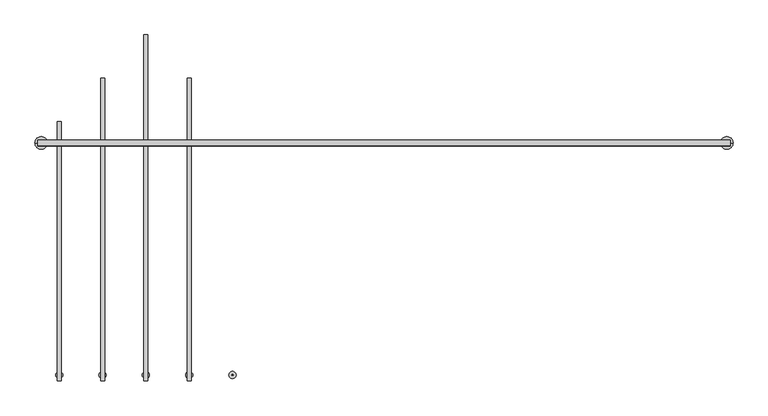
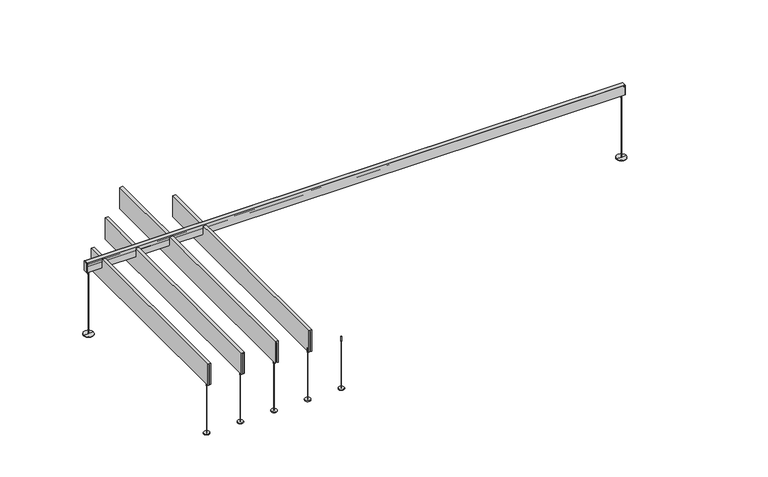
"""IFC4 building model written with IfcOpenShell, lengths in millimetres: light fixture geometry, Lighting_Fixture-Focal_Point-AirCore_Bridge-Cantilever_Wave-Seem_1_LED : FSM1SBW125LF30K1CUNVLD1J24_."""

from ifc_helpers import new_model, si_unit, point, frame, frame_2d, origin, origin_with_axes, place, context, project, spatial, polyline, circle_curve, trimmed, segment, composite_curve, outline, extrude, faceted_brep, source, transform, mapped, element, save
from ifc_brep_helpers import plane_surface, cylinder_surface, advanced_brep


def light_fixture_df12a1cc(model_context):
    return source(origin(), model_context, "Body", "SolidModel", [
        advanced_brep(
        [(-1067.7237535, -1635.125, 0.0), (-1065.8762465, -1635.125, 0.0), (-1066.8, -1635.125, 0.0), (-1067.7237535, -1635.125, 454.6203125), (-1065.8762465, -1635.125, 454.6203125), (-1070.76875, -1635.125, 454.6203125), (-1062.83125, -1635.125, 454.6203125), (-1070.76875, -1635.125, 499.0703125), (-1062.83125, -1635.125, 499.0703125), (-1066.8, -1635.125, 499.0703125)],
        [
            (0, 1, circle_curve(frame((-1066.8, -1635.125, 0.0), z_axis=(0.0, 0.0, -1.0), x_axis=(1.0, 0.0, 0.0)), 0.9237535)),
            (1, 2),
            (2, 0),
            (1, 0, circle_curve(frame((-1066.8, -1635.125, 0.0), z_axis=(0.0, 0.0, -1.0), x_axis=(1.0, 0.0, 0.0)), 0.9237535)),
            (3, 4, circle_curve(frame((-1066.8, -1635.125, 454.6203125), z_axis=(0.0, 0.0, -1.0), x_axis=(1.0, 0.0, 0.0)), 0.9237535)),
            (4, 1),
            (0, 3),
            (4, 3, circle_curve(frame((-1066.8, -1635.125, 454.6203125), z_axis=(0.0, 0.0, -1.0), x_axis=(1.0, 0.0, 0.0)), 0.9237535)),
            (5, 6, circle_curve(frame((-1066.8, -1635.125, 454.6203125), z_axis=(0.0, 0.0, -1.0), x_axis=(1.0, 0.0, 0.0)), 3.96875)),
            (6, 4),
            (3, 5),
            (6, 5, circle_curve(frame((-1066.8, -1635.125, 454.6203125), z_axis=(0.0, 0.0, -1.0), x_axis=(1.0, 0.0, 0.0)), 3.96875)),
            (7, 8, circle_curve(frame((-1066.8, -1635.125, 499.0703125), z_axis=(0.0, 0.0, -1.0), x_axis=(1.0, 0.0, 0.0)), 3.96875)),
            (8, 6),
            (5, 7),
            (8, 7, circle_curve(frame((-1066.8, -1635.125, 499.0703125), z_axis=(0.0, 0.0, -1.0), x_axis=(1.0, 0.0, 0.0)), 3.96875)),
            (9, 8),
            (7, 9),
        ],
        [
            plane_surface(frame((-1066.8, -1635.125, 0.0), z_axis=(0.0, 0.0, -1.0), x_axis=(1.0, 0.0, 0.0))),
            cylinder_surface(frame((-1066.8, -1635.125, 543.5203125), z_axis=(0.0, 0.0, 1.0), x_axis=(1.0, 0.0, 0.0)), 0.9237535),
            plane_surface(frame((-1066.8, -1635.125, 454.6203125), z_axis=(0.0, 0.0, -1.0), x_axis=(1.0, 0.0, 0.0))),
            cylinder_surface(frame((-1066.8, -1635.125, 543.5203125), z_axis=(0.0, 0.0, 1.0), x_axis=(1.0, 0.0, 0.0)), 3.96875),
            plane_surface(frame((-1066.8, -1635.125, 499.0703125), z_axis=(0.0, 0.0, 1.0), x_axis=(1.0, 0.0, 0.0))),
        ],
        [
            (0, [[1, 2, 3]]),
            (0, [[4, -3, -2]]),
            (1, [[5, 6, -1, 7]]),
            (1, [[8, -7, -4, -6]]),
            (2, [[9, 10, -5, 11]]),
            (2, [[12, -11, -8, -10]]),
            (3, [[13, 14, -9, 15]]),
            (3, [[16, -15, -12, -14]]),
            (4, [[17, -13, 18]]),
            (4, [[-18, -16, -17]]),
        ],
    ),
        extrude(outline(composite_curve([segment(trimmed(circle_curve(frame_2d((-1066.8, -1635.125)), 25.4), [point((-1066.8, -1660.525))], [point((-1066.8, -1609.725))], False, "CARTESIAN"), True, "CONTINUOUS"), segment(trimmed(circle_curve(frame_2d((-1066.8, -1635.125)), 25.4), [point((-1066.8, -1609.725))], [point((-1066.8, -1660.525))], False, "CARTESIAN"), True, "CONTINUOUS")], self_intersect=False)), origin_with_axes(), (0.0, 0.0, 1.0), 6.35),
        advanced_brep(
        [(-1372.5237535, -1635.125, 0.0), (-1370.6762465, -1635.125, 0.0), (-1371.6, -1635.125, 0.0), (-1372.5237535, -1635.125, 454.6203125), (-1370.6762465, -1635.125, 454.6203125), (-1375.56875, -1635.125, 454.6203125), (-1367.63125, -1635.125, 454.6203125), (-1375.56875, -1635.125, 499.0703125), (-1367.63125, -1635.125, 499.0703125), (-1371.6, -1635.125, 499.0703125)],
        [
            (0, 1, circle_curve(frame((-1371.6, -1635.125, 0.0), z_axis=(0.0, 0.0, -1.0), x_axis=(1.0, 0.0, 0.0)), 0.9237535)),
            (1, 2),
            (2, 0),
            (1, 0, circle_curve(frame((-1371.6, -1635.125, 0.0), z_axis=(0.0, 0.0, -1.0), x_axis=(1.0, 0.0, 0.0)), 0.9237535)),
            (3, 4, circle_curve(frame((-1371.6, -1635.125, 454.6203125), z_axis=(0.0, 0.0, -1.0), x_axis=(1.0, 0.0, 0.0)), 0.9237535)),
            (4, 1),
            (0, 3),
            (4, 3, circle_curve(frame((-1371.6, -1635.125, 454.6203125), z_axis=(0.0, 0.0, -1.0), x_axis=(1.0, 0.0, 0.0)), 0.9237535)),
            (5, 6, circle_curve(frame((-1371.6, -1635.125, 454.6203125), z_axis=(0.0, 0.0, -1.0), x_axis=(1.0, 0.0, 0.0)), 3.96875)),
            (6, 4),
            (3, 5),
            (6, 5, circle_curve(frame((-1371.6, -1635.125, 454.6203125), z_axis=(0.0, 0.0, -1.0), x_axis=(1.0, 0.0, 0.0)), 3.96875)),
            (7, 8, circle_curve(frame((-1371.6, -1635.125, 499.0703125), z_axis=(0.0, 0.0, -1.0), x_axis=(1.0, 0.0, 0.0)), 3.96875)),
            (8, 6),
            (5, 7),
            (8, 7, circle_curve(frame((-1371.6, -1635.125, 499.0703125), z_axis=(0.0, 0.0, -1.0), x_axis=(1.0, 0.0, 0.0)), 3.96875)),
            (9, 8),
            (7, 9),
        ],
        [
            plane_surface(frame((-1371.6, -1635.125, 0.0), z_axis=(0.0, 0.0, -1.0), x_axis=(1.0, 0.0, 0.0))),
            cylinder_surface(frame((-1371.6, -1635.125, 543.5203125), z_axis=(0.0, 0.0, 1.0), x_axis=(1.0, 0.0, 0.0)), 0.9237535),
            plane_surface(frame((-1371.6, -1635.125, 454.6203125), z_axis=(0.0, 0.0, -1.0), x_axis=(1.0, 0.0, 0.0))),
            cylinder_surface(frame((-1371.6, -1635.125, 543.5203125), z_axis=(0.0, 0.0, 1.0), x_axis=(1.0, 0.0, 0.0)), 3.96875),
            plane_surface(frame((-1371.6, -1635.125, 499.0703125), z_axis=(0.0, 0.0, 1.0), x_axis=(1.0, 0.0, 0.0))),
        ],
        [
            (0, [[1, 2, 3]]),
            (0, [[4, -3, -2]]),
            (1, [[5, 6, -1, 7]]),
            (1, [[8, -7, -4, -6]]),
            (2, [[9, 10, -5, 11]]),
            (2, [[12, -11, -8, -10]]),
            (3, [[13, 14, -9, 15]]),
            (3, [[16, -15, -12, -14]]),
            (4, [[17, -13, 18]]),
            (4, [[-18, -16, -17]]),
        ],
    ),
        extrude(outline(composite_curve([segment(trimmed(circle_curve(frame_2d((-1371.6, -1635.125)), 25.4), [point((-1371.6, -1660.525))], [point((-1371.6, -1609.725))], False, "CARTESIAN"), True, "CONTINUOUS"), segment(trimmed(circle_curve(frame_2d((-1371.6, -1635.125)), 25.4), [point((-1371.6, -1609.725))], [point((-1371.6, -1660.525))], False, "CARTESIAN"), True, "CONTINUOUS")], self_intersect=False)), origin_with_axes(), (0.0, 0.0, 1.0), 6.35),
        advanced_brep(
        [(-1677.3237535, -1635.125, 0.0), (-1675.4762465, -1635.125, 0.0), (-1676.4, -1635.125, 0.0), (-1677.3237535, -1635.125, 454.6203125), (-1675.4762465, -1635.125, 454.6203125), (-1680.36875, -1635.125, 454.6203125), (-1672.43125, -1635.125, 454.6203125), (-1680.36875, -1635.125, 499.0703125), (-1672.43125, -1635.125, 499.0703125), (-1676.4, -1635.125, 499.0703125)],
        [
            (0, 1, circle_curve(frame((-1676.4, -1635.125, 0.0), z_axis=(0.0, 0.0, -1.0), x_axis=(1.0, 0.0, 0.0)), 0.9237535)),
            (1, 2),
            (2, 0),
            (1, 0, circle_curve(frame((-1676.4, -1635.125, 0.0), z_axis=(0.0, 0.0, -1.0), x_axis=(1.0, 0.0, 0.0)), 0.9237535)),
            (3, 4, circle_curve(frame((-1676.4, -1635.125, 454.6203125), z_axis=(0.0, 0.0, -1.0), x_axis=(1.0, 0.0, 0.0)), 0.9237535)),
            (4, 1),
            (0, 3),
            (4, 3, circle_curve(frame((-1676.4, -1635.125, 454.6203125), z_axis=(0.0, 0.0, -1.0), x_axis=(1.0, 0.0, 0.0)), 0.9237535)),
            (5, 6, circle_curve(frame((-1676.4, -1635.125, 454.6203125), z_axis=(0.0, 0.0, -1.0), x_axis=(1.0, 0.0, 0.0)), 3.96875)),
            (6, 4),
            (3, 5),
            (6, 5, circle_curve(frame((-1676.4, -1635.125, 454.6203125), z_axis=(0.0, 0.0, -1.0), x_axis=(1.0, 0.0, 0.0)), 3.96875)),
            (7, 8, circle_curve(frame((-1676.4, -1635.125, 499.0703125), z_axis=(0.0, 0.0, -1.0), x_axis=(1.0, 0.0, 0.0)), 3.96875)),
            (8, 6),
            (5, 7),
            (8, 7, circle_curve(frame((-1676.4, -1635.125, 499.0703125), z_axis=(0.0, 0.0, -1.0), x_axis=(1.0, 0.0, 0.0)), 3.96875)),
            (9, 8),
            (7, 9),
        ],
        [
            plane_surface(frame((-1676.4, -1635.125, 0.0), z_axis=(0.0, 0.0, -1.0), x_axis=(1.0, 0.0, 0.0))),
            cylinder_surface(frame((-1676.4, -1635.125, 543.5203125), z_axis=(0.0, 0.0, 1.0), x_axis=(1.0, 0.0, 0.0)), 0.9237535),
            plane_surface(frame((-1676.4, -1635.125, 454.6203125), z_axis=(0.0, 0.0, -1.0), x_axis=(1.0, 0.0, 0.0))),
            cylinder_surface(frame((-1676.4, -1635.125, 543.5203125), z_axis=(0.0, 0.0, 1.0), x_axis=(1.0, 0.0, 0.0)), 3.96875),
            plane_surface(frame((-1676.4, -1635.125, 499.0703125), z_axis=(0.0, 0.0, 1.0), x_axis=(1.0, 0.0, 0.0))),
        ],
        [
            (0, [[1, 2, 3]]),
            (0, [[4, -3, -2]]),
            (1, [[5, 6, -1, 7]]),
            (1, [[8, -7, -4, -6]]),
            (2, [[9, 10, -5, 11]]),
            (2, [[12, -11, -8, -10]]),
            (3, [[13, 14, -9, 15]]),
            (3, [[16, -15, -12, -14]]),
            (4, [[17, -13, 18]]),
            (4, [[-18, -16, -17]]),
        ],
    ),
        extrude(outline(composite_curve([segment(trimmed(circle_curve(frame_2d((-1676.4, -1635.125)), 25.4), [point((-1676.4, -1660.525))], [point((-1676.4, -1609.725))], False, "CARTESIAN"), True, "CONTINUOUS"), segment(trimmed(circle_curve(frame_2d((-1676.4, -1635.125)), 25.4), [point((-1676.4, -1609.725))], [point((-1676.4, -1660.525))], False, "CARTESIAN"), True, "CONTINUOUS")], self_intersect=False)), origin_with_axes(), (0.0, 0.0, 1.0), 6.35),
        advanced_brep(
        [(-1982.1237535, -1635.125, 0.0), (-1980.2762465, -1635.125, 0.0), (-1981.2, -1635.125, 0.0), (-1982.1237535, -1635.125, 454.6203125), (-1980.2762465, -1635.125, 454.6203125), (-1985.16875, -1635.125, 454.6203125), (-1977.23125, -1635.125, 454.6203125), (-1985.16875, -1635.125, 499.0703125), (-1977.23125, -1635.125, 499.0703125), (-1981.2, -1635.125, 499.0703125)],
        [
            (0, 1, circle_curve(frame((-1981.2, -1635.125, 0.0), z_axis=(0.0, 0.0, -1.0), x_axis=(1.0, 0.0, 0.0)), 0.9237535)),
            (1, 2),
            (2, 0),
            (1, 0, circle_curve(frame((-1981.2, -1635.125, 0.0), z_axis=(0.0, 0.0, -1.0), x_axis=(1.0, 0.0, 0.0)), 0.9237535)),
            (3, 4, circle_curve(frame((-1981.2, -1635.125, 454.6203125), z_axis=(0.0, 0.0, -1.0), x_axis=(1.0, 0.0, 0.0)), 0.9237535)),
            (4, 1),
            (0, 3),
            (4, 3, circle_curve(frame((-1981.2, -1635.125, 454.6203125), z_axis=(0.0, 0.0, -1.0), x_axis=(1.0, 0.0, 0.0)), 0.9237535)),
            (5, 6, circle_curve(frame((-1981.2, -1635.125, 454.6203125), z_axis=(0.0, 0.0, -1.0), x_axis=(1.0, 0.0, 0.0)), 3.96875)),
            (6, 4),
            (3, 5),
            (6, 5, circle_curve(frame((-1981.2, -1635.125, 454.6203125), z_axis=(0.0, 0.0, -1.0), x_axis=(1.0, 0.0, 0.0)), 3.96875)),
            (7, 8, circle_curve(frame((-1981.2, -1635.125, 499.0703125), z_axis=(0.0, 0.0, -1.0), x_axis=(1.0, 0.0, 0.0)), 3.96875)),
            (8, 6),
            (5, 7),
            (8, 7, circle_curve(frame((-1981.2, -1635.125, 499.0703125), z_axis=(0.0, 0.0, -1.0), x_axis=(1.0, 0.0, 0.0)), 3.96875)),
            (9, 8),
            (7, 9),
        ],
        [
            plane_surface(frame((-1981.2, -1635.125, 0.0), z_axis=(0.0, 0.0, -1.0), x_axis=(1.0, 0.0, 0.0))),
            cylinder_surface(frame((-1981.2, -1635.125, 543.5203125), z_axis=(0.0, 0.0, 1.0), x_axis=(1.0, 0.0, 0.0)), 0.9237535),
            plane_surface(frame((-1981.2, -1635.125, 454.6203125), z_axis=(0.0, 0.0, -1.0), x_axis=(1.0, 0.0, 0.0))),
            cylinder_surface(frame((-1981.2, -1635.125, 543.5203125), z_axis=(0.0, 0.0, 1.0), x_axis=(1.0, 0.0, 0.0)), 3.96875),
            plane_surface(frame((-1981.2, -1635.125, 499.0703125), z_axis=(0.0, 0.0, 1.0), x_axis=(1.0, 0.0, 0.0))),
        ],
        [
            (0, [[1, 2, 3]]),
            (0, [[4, -3, -2]]),
            (1, [[5, 6, -1, 7]]),
            (1, [[8, -7, -4, -6]]),
            (2, [[9, 10, -5, 11]]),
            (2, [[12, -11, -8, -10]]),
            (3, [[13, 14, -9, 15]]),
            (3, [[16, -15, -12, -14]]),
            (4, [[17, -13, 18]]),
            (4, [[-18, -16, -17]]),
        ],
    ),
        extrude(outline(composite_curve([segment(trimmed(circle_curve(frame_2d((-1981.2, -1635.125)), 25.4), [point((-1981.2, -1660.525))], [point((-1981.2, -1609.725))], False, "CARTESIAN"), True, "CONTINUOUS"), segment(trimmed(circle_curve(frame_2d((-1981.2, -1635.125)), 25.4), [point((-1981.2, -1609.725))], [point((-1981.2, -1660.525))], False, "CARTESIAN"), True, "CONTINUOUS")], self_intersect=False)), origin_with_axes(), (0.0, 0.0, 1.0), 6.35),
        extrude(outline(polyline([(-1377.553125, 428.625), (-1365.646875, 428.625), (-1365.646875, -1647.825), (-1377.553125, -1647.825), (-1377.553125, 428.625)])), frame((0.0, 0.0, 486.3703125), z_axis=(0.0, 0.0, 1.0), x_axis=(1.0, 0.0, 0.0)), (0.0, 0.0, 1.0), 195.2625),
        extrude(outline(polyline([(689.5703125, -1357.709375), (689.5703125, -1385.490625), (486.3703125, -1385.490625), (486.3703125, -1377.553125), (681.6328125, -1377.553125), (681.6328125, -1365.646875), (486.3703125, -1365.646875), (486.3703125, -1357.709375), (689.5703125, -1357.709375)])), frame((0.0, -1676.4, 0.0), z_axis=(0.0, 1.0, 0.0), x_axis=(0.0, 0.0, 1.0)), (0.0, 0.0, 1.0), 2133.6),
        extrude(outline(polyline([(-1682.353125, 733.425), (-1670.446875, 733.425), (-1670.446875, -1647.825), (-1682.353125, -1647.825), (-1682.353125, 733.425)])), frame((0.0, 0.0, 486.3703125), z_axis=(0.0, 0.0, 1.0), x_axis=(1.0, 0.0, 0.0)), (0.0, 0.0, 1.0), 195.2625),
        extrude(outline(polyline([(689.5703125, -1662.509375), (689.5703125, -1690.290625), (486.3703125, -1690.290625), (486.3703125, -1682.353125), (681.6328125, -1682.353125), (681.6328125, -1670.446875), (486.3703125, -1670.446875), (486.3703125, -1662.509375), (689.5703125, -1662.509375)])), frame((0.0, -1676.4, 0.0), z_axis=(0.0, 1.0, 0.0), x_axis=(0.0, 0.0, 1.0)), (0.0, 0.0, 1.0), 2438.4),
        extrude(outline(polyline([(-1987.153125, 428.625), (-1975.246875, 428.625), (-1975.246875, -1647.825), (-1987.153125, -1647.825), (-1987.153125, 428.625)])), frame((0.0, 0.0, 486.3703125), z_axis=(0.0, 0.0, 1.0), x_axis=(1.0, 0.0, 0.0)), (0.0, 0.0, 1.0), 195.2625),
        extrude(outline(polyline([(689.5703125, -1967.309375), (689.5703125, -1995.090625), (486.3703125, -1995.090625), (486.3703125, -1987.153125), (681.6328125, -1987.153125), (681.6328125, -1975.246875), (486.3703125, -1975.246875), (486.3703125, -1967.309375), (689.5703125, -1967.309375)])), frame((0.0, -1676.4, 0.0), z_axis=(0.0, 1.0, 0.0), x_axis=(0.0, 0.0, 1.0)), (0.0, 0.0, 1.0), 2133.6),
        extrude(outline(polyline([(-2291.953125, 123.825), (-2280.046875, 123.825), (-2280.046875, -1647.825), (-2291.953125, -1647.825), (-2291.953125, 123.825)])), frame((0.0, 0.0, 486.3703125), z_axis=(0.0, 0.0, 1.0), x_axis=(1.0, 0.0, 0.0)), (0.0, 0.0, 1.0), 195.2625),
        extrude(outline(polyline([(689.5703125, -2272.109375), (689.5703125, -2299.890625), (486.3703125, -2299.890625), (486.3703125, -2291.953125), (681.6328125, -2291.953125), (681.6328125, -2280.046875), (486.3703125, -2280.046875), (486.3703125, -2272.109375), (689.5703125, -2272.109375)])), frame((0.0, -1676.4, 0.0), z_axis=(0.0, 1.0, 0.0), x_axis=(0.0, 0.0, 1.0)), (0.0, 0.0, 1.0), 1828.8),
        advanced_brep(
        [(-2286.9237535, -1635.125, 0.0), (-2285.0762465, -1635.125, 0.0), (-2286.0, -1635.125, 0.0), (-2286.9237535, -1635.125, 454.6203125), (-2285.0762465, -1635.125, 454.6203125), (-2289.96875, -1635.125, 454.6203125), (-2282.03125, -1635.125, 454.6203125), (-2289.96875, -1635.125, 499.0703125), (-2282.03125, -1635.125, 499.0703125), (-2286.0, -1635.125, 499.0703125)],
        [
            (0, 1, circle_curve(frame((-2286.0, -1635.125, 0.0), z_axis=(0.0, 0.0, -1.0), x_axis=(1.0, 0.0, 0.0)), 0.9237535)),
            (1, 2),
            (2, 0),
            (1, 0, circle_curve(frame((-2286.0, -1635.125, 0.0), z_axis=(0.0, 0.0, -1.0), x_axis=(1.0, 0.0, 0.0)), 0.9237535)),
            (3, 4, circle_curve(frame((-2286.0, -1635.125, 454.6203125), z_axis=(0.0, 0.0, -1.0), x_axis=(1.0, 0.0, 0.0)), 0.9237535)),
            (4, 1),
            (0, 3),
            (4, 3, circle_curve(frame((-2286.0, -1635.125, 454.6203125), z_axis=(0.0, 0.0, -1.0), x_axis=(1.0, 0.0, 0.0)), 0.9237535)),
            (5, 6, circle_curve(frame((-2286.0, -1635.125, 454.6203125), z_axis=(0.0, 0.0, -1.0), x_axis=(1.0, 0.0, 0.0)), 3.96875)),
            (6, 4),
            (3, 5),
            (6, 5, circle_curve(frame((-2286.0, -1635.125, 454.6203125), z_axis=(0.0, 0.0, -1.0), x_axis=(1.0, 0.0, 0.0)), 3.96875)),
            (7, 8, circle_curve(frame((-2286.0, -1635.125, 499.0703125), z_axis=(0.0, 0.0, -1.0), x_axis=(1.0, 0.0, 0.0)), 3.96875)),
            (8, 6),
            (5, 7),
            (8, 7, circle_curve(frame((-2286.0, -1635.125, 499.0703125), z_axis=(0.0, 0.0, -1.0), x_axis=(1.0, 0.0, 0.0)), 3.96875)),
            (9, 8),
            (7, 9),
        ],
        [
            plane_surface(frame((-2286.0, -1635.125, 0.0), z_axis=(0.0, 0.0, -1.0), x_axis=(1.0, 0.0, 0.0))),
            cylinder_surface(frame((-2286.0, -1635.125, 543.5203125), z_axis=(0.0, 0.0, 1.0), x_axis=(1.0, 0.0, 0.0)), 0.9237535),
            plane_surface(frame((-2286.0, -1635.125, 454.6203125), z_axis=(0.0, 0.0, -1.0), x_axis=(1.0, 0.0, 0.0))),
            cylinder_surface(frame((-2286.0, -1635.125, 543.5203125), z_axis=(0.0, 0.0, 1.0), x_axis=(1.0, 0.0, 0.0)), 3.96875),
            plane_surface(frame((-2286.0, -1635.125, 499.0703125), z_axis=(0.0, 0.0, 1.0), x_axis=(1.0, 0.0, 0.0))),
        ],
        [
            (0, [[1, 2, 3]]),
            (0, [[4, -3, -2]]),
            (1, [[5, 6, -1, 7]]),
            (1, [[8, -7, -4, -6]]),
            (2, [[9, 10, -5, 11]]),
            (2, [[12, -11, -8, -10]]),
            (3, [[13, 14, -9, 15]]),
            (3, [[16, -15, -12, -14]]),
            (4, [[17, -13, 18]]),
            (4, [[-18, -16, -17]]),
        ],
    ),
        extrude(outline(composite_curve([segment(trimmed(circle_curve(frame_2d((-2286.0, -1635.125)), 25.4), [point((-2286.0, -1660.525))], [point((-2286.0, -1609.725))], False, "CARTESIAN"), True, "CONTINUOUS"), segment(trimmed(circle_curve(frame_2d((-2286.0, -1635.125)), 25.4), [point((-2286.0, -1609.725))], [point((-2286.0, -1660.525))], False, "CARTESIAN"), True, "CONTINUOUS")], self_intersect=False)), origin_with_axes(), (0.0, 0.0, 1.0), 6.35),
        advanced_brep(
        [(2415.1602631, 0.0, 6.35), (2410.8397369, 0.0, 6.35), (2410.8397369, 0.0, 578.5929436), (2415.1602631, 0.0, 578.5929436), (2417.6304584, 0.0, 617.2870305), (2408.3695416, 0.0, 617.2870305), (2413.0, 0.0, 617.2870305), (2417.6304584, 0.0, 578.5929436), (2408.3695416, 0.0, 578.5929436), (2457.45, 0.0, 6.35), (2368.55, 0.0, 6.35), (2457.45, 0.0, 0.0), (2368.55, 0.0, 0.0), (2413.0, 0.0, 0.0)],
        [
            (0, 1, circle_curve(frame((2413.0, 0.0, 6.35), z_axis=(0.0, 0.0, 1.0), x_axis=(-1.0, 0.0, 0.0)), 2.1602631)),
            (1, 2),
            (2, 3, circle_curve(frame((2413.0, 0.0, 578.5929436), z_axis=(0.0, 0.0, -1.0), x_axis=(-1.0, 0.0, 0.0)), 2.1602631)),
            (3, 0),
            (1, 0, circle_curve(frame((2413.0, 0.0, 6.35), z_axis=(0.0, 0.0, 1.0), x_axis=(-1.0, 0.0, 0.0)), 2.1602631)),
            (3, 2, circle_curve(frame((2413.0, 0.0, 578.5929436), z_axis=(0.0, 0.0, -1.0), x_axis=(-1.0, 0.0, 0.0)), 2.1602631)),
            (4, 5, circle_curve(frame((2413.0, 0.0, 617.2870305), z_axis=(0.0, 0.0, 1.0), x_axis=(-1.0, 0.0, 0.0)), 4.6304584)),
            (5, 6),
            (6, 4),
            (5, 4, circle_curve(frame((2413.0, 0.0, 617.2870305), z_axis=(0.0, 0.0, 1.0), x_axis=(-1.0, 0.0, 0.0)), 4.6304584)),
            (7, 8, circle_curve(frame((2413.0, 0.0, 578.5929436), z_axis=(0.0, 0.0, 1.0), x_axis=(-1.0, 0.0, 0.0)), 4.6304584)),
            (8, 5),
            (4, 7),
            (8, 7, circle_curve(frame((2413.0, 0.0, 578.5929436), z_axis=(0.0, 0.0, 1.0), x_axis=(-1.0, 0.0, 0.0)), 4.6304584)),
            (2, 8),
            (7, 3),
            (9, 10, circle_curve(frame((2413.0, 0.0, 6.35), z_axis=(0.0, 0.0, 1.0), x_axis=(-1.0, 0.0, 0.0)), 44.45)),
            (10, 1),
            (0, 9),
            (10, 9, circle_curve(frame((2413.0, 0.0, 6.35), z_axis=(0.0, 0.0, 1.0), x_axis=(-1.0, 0.0, 0.0)), 44.45)),
            (11, 12, circle_curve(frame((2413.0, 0.0, 0.0), z_axis=(0.0, 0.0, 1.0), x_axis=(-1.0, 0.0, 0.0)), 44.45)),
            (12, 10),
            (9, 11),
            (12, 11, circle_curve(frame((2413.0, 0.0, 0.0), z_axis=(0.0, 0.0, 1.0), x_axis=(-1.0, 0.0, 0.0)), 44.45)),
            (13, 12),
            (11, 13),
        ],
        [
            cylinder_surface(frame((2413.0, 0.0, 1013.5679436), z_axis=(0.0, 0.0, -1.0), x_axis=(-1.0, 0.0, 0.0)), 2.1602631),
            plane_surface(frame((2413.0, 0.0, 617.2870305), z_axis=(0.0, 0.0, 1.0), x_axis=(-1.0, 0.0, 0.0))),
            cylinder_surface(frame((2413.0, 0.0, 1013.5679436), z_axis=(0.0, 0.0, -1.0), x_axis=(-1.0, 0.0, 0.0)), 4.6304584),
            plane_surface(frame((2413.0, 0.0, 578.5929436), z_axis=(0.0, 0.0, -1.0), x_axis=(-1.0, 0.0, 0.0))),
            plane_surface(frame((2413.0, 0.0, 6.35), z_axis=(0.0, 0.0, 1.0), x_axis=(-1.0, 0.0, 0.0))),
            cylinder_surface(frame((2413.0, 0.0, 1013.5679436), z_axis=(0.0, 0.0, -1.0), x_axis=(-1.0, 0.0, 0.0)), 44.45),
            plane_surface(frame((2413.0, 0.0, 0.0), z_axis=(0.0, 0.0, -1.0), x_axis=(-1.0, 0.0, 0.0))),
        ],
        [
            (0, [[1, 2, 3, 4]]),
            (0, [[5, -4, 6, -2]]),
            (1, [[7, 8, 9]]),
            (1, [[10, -9, -8]]),
            (2, [[11, 12, -7, 13]]),
            (2, [[14, -13, -10, -12]]),
            (3, [[-3, 15, -11, 16]]),
            (3, [[-6, -16, -14, -15]]),
            (4, [[17, 18, -1, 19]]),
            (4, [[20, -19, -5, -18]]),
            (5, [[21, 22, -17, 23]]),
            (5, [[24, -23, -20, -22]]),
            (6, [[25, -21, 26]]),
            (6, [[-26, -24, -25]]),
        ],
    ),
        faceted_brep([(-2435.7759239, 18.258255, 683.6980748), (-2435.7759239, 15.7110021, 680.3177561), (-2435.7759239, 14.4431682, 681.2731375), (-2435.7759239, 17.0442657, 684.7249104), (-2435.7759239, 13.8854155, 686.5486734), (-2435.7759239, 16.1364037, 692.4126981), (-2435.7759239, 17.464505, 692.4126981), (-2435.7759239, 17.464505, 694.2092414), (-2435.7759239, -17.464505, 694.2092414), (-2435.7759239, -17.464505, 692.4126981), (-2435.7759239, -16.1364037, 692.4126981), (-2435.7759239, -13.8854155, 686.5486734), (-2435.7759239, -17.0442657, 684.7249104), (-2435.7759239, -14.4431682, 681.2731375), (-2435.7759239, -15.7024761, 680.3241809), (-2435.7759239, -18.258255, 683.715814), (-2435.7759239, -18.258255, 685.8571004), (-2435.7759239, -15.8533687, 687.2455621), (-2435.7759239, -17.2274622, 690.8251981), (-2435.7759239, -19.052005, 690.8251981), (-2435.7759239, -19.052005, 698.5), (-2435.7759239, 19.052005, 698.5), (-2435.7759239, 19.052005, 690.8251981), (-2435.7759239, 17.2274622, 690.8251981), (-2435.7759239, 15.8533687, 687.2455621), (-2435.7759239, 18.258255, 685.8571004), (2435.7759239, 18.258255, 683.6980748), (2435.7759239, 18.258255, 685.8571004), (2435.7759239, 15.8533687, 687.2455621), (2435.7759239, 17.2274622, 690.8251981), (2435.7759239, 19.052005, 690.8251981), (2435.7759239, 19.052005, 698.5), (2435.7759239, -19.052005, 698.5), (2435.7759239, -19.052005, 690.8251981), (2435.7759239, -17.2274622, 690.8251981), (2435.7759239, -15.8533687, 687.2455621), (2435.7759239, -18.258255, 685.8571004), (2435.7759239, -18.258255, 683.715814), (2435.7759239, -15.7024761, 680.3241809), (2435.7759239, -14.4431682, 681.2731375), (2435.7759239, -17.0442657, 684.7249104), (2435.7759239, -13.8854155, 686.5486734), (2435.7759239, -16.1364037, 692.4126981), (2435.7759239, -17.464505, 692.4126981), (2435.7759239, -17.464505, 694.2092414), (2435.7759239, 17.464505, 694.2092414), (2435.7759239, 17.464505, 692.4126981), (2435.7759239, 16.1364037, 692.4126981), (2435.7759239, 13.8854155, 686.5486734), (2435.7759239, 17.0442657, 684.7249104), (2435.7759239, 14.4431682, 681.2731375), (2435.7759239, 15.7110021, 680.3177561), (2434.1726379, 17.464505, 694.2092414), (2434.1726379, 17.464505, 696.9125), (-2434.1726379, 17.464505, 696.9125), (-2434.1726379, 17.464505, 694.2092414), (2434.1726379, -17.464505, 696.9125), (-2434.1726379, -17.464505, 696.9125), (-2434.1726379, -17.464505, 694.2092414), (2434.1726379, -17.464505, 694.2092414), (2434.1726379, -19.052005, 698.5), (-2434.1726379, -19.052005, 698.5), (2434.1726379, 19.052005, 698.5), (-2434.1726379, 19.052005, 698.5)], [[[0, 1, 2, 3, 4, 5, 6, 7, 8, 9, 10, 11, 12, 13, 14, 15, 16, 17, 18, 19, 20, 21, 22, 23, 24, 25]], [[26, 27, 28, 29, 30, 31, 32, 33, 34, 35, 36, 37, 38, 39, 40, 41, 42, 43, 44, 45, 46, 47, 48, 49, 50, 51]], [[1, 0, 26, 51]], [[2, 1, 51, 50]], [[3, 2, 50, 49]], [[4, 3, 49, 48]], [[5, 4, 48, 47]], [[6, 5, 47, 46]], [[6, 46, 45, 52, 53, 54, 55, 7]], [[54, 53, 56, 57]], [[43, 9, 8, 58, 57, 56, 59, 44]], [[10, 9, 43, 42]], [[11, 10, 42, 41]], [[12, 11, 41, 40]], [[13, 12, 40, 39]], [[14, 13, 39, 38]], [[15, 14, 38, 37]], [[16, 15, 37, 36]], [[17, 16, 36, 35]], [[18, 17, 35, 34]], [[19, 18, 34, 33]], [[20, 19, 33, 32, 60, 61]], [[21, 20, 61, 60, 32, 31, 62, 63]], [[31, 30, 22, 21, 63, 62]], [[23, 22, 30, 29]], [[24, 23, 29, 28]], [[25, 24, 28, 27]], [[0, 25, 27, 26]], [[8, 7, 55, 58]], [[45, 44, 59, 52]], [[58, 55, 54, 57]], [[52, 59, 56, 53]]]),
        extrude(outline(polyline([(2438.4, 21.2328125), (2438.4, -21.2328125), (2435.7759239, -21.2328125), (2435.7759239, 21.2328125), (2438.4, 21.2328125)])), frame((0.0, 0.0, 609.6), z_axis=(0.0, 0.0, 1.0), x_axis=(1.0, 0.0, 0.0)), (0.0, 0.0, 1.0), 88.9),
        extrude(outline(polyline([(-2438.4, 21.2328125), (-2435.7759239, 21.2328125), (-2435.7759239, -21.2328125), (-2438.4, -21.2328125), (-2438.4, 21.2328125)])), frame((0.0, 0.0, 609.6), z_axis=(0.0, 0.0, 1.0), x_axis=(1.0, 0.0, 0.0)), (0.0, 0.0, 1.0), 88.9),
        extrude(outline(polyline([(21.2328125, 698.5), (21.2328125, 609.6), (19.5658437, 609.6), (16.6238378, 611.6821699), (17.4679179, 612.8748144), (19.1530671, 611.6821699), (19.1530671, 615.2558491), (-19.1530671, 615.2558491), (-19.1530671, 611.6821699), (-17.4679179, 612.8748144), (-16.6238378, 611.6821699), (-19.5658437, 609.6), (-21.2328125, 609.6), (-21.2328125, 698.5), (-19.052005, 698.5), (-19.052005, 667.2378262), (-13.3446628, 664.4541694), (-16.5752011, 657.8305842), (-19.052005, 657.8305842), (-19.052005, 618.8340085), (-17.489624, 617.5230152), (-11.6590079, 617.5230152), (-11.6590079, 622.6953899), (-10.1171022, 624.2372956), (-6.1086881, 624.2372956), (-4.5777065, 622.706314), (-4.5777065, 617.5230152), (-1.2903926, 617.5230152), (-1.2903926, 623.9573244), (1.2903926, 623.9573244), (1.2903926, 617.5230152), (4.5777065, 617.5230152), (4.5777065, 622.706314), (6.1086881, 624.2372956), (10.1171022, 624.2372956), (11.6590079, 622.6953899), (11.6590079, 617.5230152), (17.489624, 617.5230152), (19.052005, 618.8340085), (19.052005, 657.8305842), (16.5752011, 657.8305842), (13.3446628, 664.4541694), (19.052005, 667.2378262), (19.052005, 698.5), (21.2328125, 698.5)])), frame((-2435.7759239, 0.0, 0.0), z_axis=(1.0, 0.0, 0.0), x_axis=(0.0, 1.0, 0.0)), (0.0, 0.0, 1.0), 4871.5518478),
        extrude(outline(polyline([(16.2455373, 687.0191435), (17.7983995, 689.7087796), (18.4858071, 689.3119046), (17.32982, 687.3096761), (19.052005, 686.3153722), (19.052005, 667.2378262), (13.3446628, 664.4541694), (-13.3446628, 664.4541694), (-19.052005, 667.2378262), (-19.052005, 686.3153722), (-17.32982, 687.3096761), (-18.4858071, 689.3119046), (-17.7983995, 689.7087796), (-16.2455373, 687.0191435), (-18.258255, 685.8571004), (-18.258255, 667.7338163), (-13.1614111, 665.2479194), (13.1614111, 665.2479194), (18.258255, 667.7338163), (18.258255, 685.8571004), (16.2455373, 687.0191435)])), frame((-2435.7759239, 0.0, 0.0), z_axis=(1.0, 0.0, 0.0), x_axis=(0.0, 1.0, 0.0)), (0.0, 0.0, 1.0), 4871.5518478),
        advanced_brep(
        [(-2410.8397369, 0.0, 6.35), (-2415.1602631, 0.0, 6.35), (-2415.1602631, 0.0, 578.5929436), (-2410.8397369, 0.0, 578.5929436), (-2408.3695416, 0.0, 617.2870305), (-2417.6304584, 0.0, 617.2870305), (-2413.0, 0.0, 617.2870305), (-2408.3695416, 0.0, 578.5929436), (-2417.6304584, 0.0, 578.5929436), (-2368.55, 0.0, 6.35), (-2457.45, 0.0, 6.35), (-2368.55, 0.0, 0.0), (-2457.45, 0.0, 0.0), (-2413.0, 0.0, 0.0)],
        [
            (0, 1, circle_curve(frame((-2413.0, 0.0, 6.35), z_axis=(0.0, 0.0, 1.0), x_axis=(-1.0, 0.0, 0.0)), 2.1602631)),
            (1, 2),
            (2, 3, circle_curve(frame((-2413.0, 0.0, 578.5929436), z_axis=(0.0, 0.0, -1.0), x_axis=(-1.0, 0.0, 0.0)), 2.1602631)),
            (3, 0),
            (1, 0, circle_curve(frame((-2413.0, 0.0, 6.35), z_axis=(0.0, 0.0, 1.0), x_axis=(-1.0, 0.0, 0.0)), 2.1602631)),
            (3, 2, circle_curve(frame((-2413.0, 0.0, 578.5929436), z_axis=(0.0, 0.0, -1.0), x_axis=(-1.0, 0.0, 0.0)), 2.1602631)),
            (4, 5, circle_curve(frame((-2413.0, 0.0, 617.2870305), z_axis=(0.0, 0.0, 1.0), x_axis=(-1.0, 0.0, 0.0)), 4.6304584)),
            (5, 6),
            (6, 4),
            (5, 4, circle_curve(frame((-2413.0, 0.0, 617.2870305), z_axis=(0.0, 0.0, 1.0), x_axis=(-1.0, 0.0, 0.0)), 4.6304584)),
            (7, 8, circle_curve(frame((-2413.0, 0.0, 578.5929436), z_axis=(0.0, 0.0, 1.0), x_axis=(-1.0, 0.0, 0.0)), 4.6304584)),
            (8, 5),
            (4, 7),
            (8, 7, circle_curve(frame((-2413.0, 0.0, 578.5929436), z_axis=(0.0, 0.0, 1.0), x_axis=(-1.0, 0.0, 0.0)), 4.6304584)),
            (2, 8),
            (7, 3),
            (9, 10, circle_curve(frame((-2413.0, 0.0, 6.35), z_axis=(0.0, 0.0, 1.0), x_axis=(-1.0, 0.0, 0.0)), 44.45)),
            (10, 1),
            (0, 9),
            (10, 9, circle_curve(frame((-2413.0, 0.0, 6.35), z_axis=(0.0, 0.0, 1.0), x_axis=(-1.0, 0.0, 0.0)), 44.45)),
            (11, 12, circle_curve(frame((-2413.0, 0.0, 0.0), z_axis=(0.0, 0.0, 1.0), x_axis=(-1.0, 0.0, 0.0)), 44.45)),
            (12, 10),
            (9, 11),
            (12, 11, circle_curve(frame((-2413.0, 0.0, 0.0), z_axis=(0.0, 0.0, 1.0), x_axis=(-1.0, 0.0, 0.0)), 44.45)),
            (13, 12),
            (11, 13),
        ],
        [
            cylinder_surface(frame((-2413.0, 0.0, 1013.5679436), z_axis=(0.0, 0.0, -1.0), x_axis=(-1.0, 0.0, 0.0)), 2.1602631),
            plane_surface(frame((-2413.0, 0.0, 617.2870305), z_axis=(0.0, 0.0, 1.0), x_axis=(-1.0, 0.0, 0.0))),
            cylinder_surface(frame((-2413.0, 0.0, 1013.5679436), z_axis=(0.0, 0.0, -1.0), x_axis=(-1.0, 0.0, 0.0)), 4.6304584),
            plane_surface(frame((-2413.0, 0.0, 578.5929436), z_axis=(0.0, 0.0, -1.0), x_axis=(-1.0, 0.0, 0.0))),
            plane_surface(frame((-2413.0, 0.0, 6.35), z_axis=(0.0, 0.0, 1.0), x_axis=(-1.0, 0.0, 0.0))),
            cylinder_surface(frame((-2413.0, 0.0, 1013.5679436), z_axis=(0.0, 0.0, -1.0), x_axis=(-1.0, 0.0, 0.0)), 44.45),
            plane_surface(frame((-2413.0, 0.0, 0.0), z_axis=(0.0, 0.0, -1.0), x_axis=(-1.0, 0.0, 0.0))),
        ],
        [
            (0, [[1, 2, 3, 4]]),
            (0, [[5, -4, 6, -2]]),
            (1, [[7, 8, 9]]),
            (1, [[10, -9, -8]]),
            (2, [[11, 12, -7, 13]]),
            (2, [[14, -13, -10, -12]]),
            (3, [[-3, 15, -11, 16]]),
            (3, [[-6, -16, -14, -15]]),
            (4, [[17, 18, -1, 19]]),
            (4, [[20, -19, -5, -18]]),
            (5, [[21, 22, -17, 23]]),
            (5, [[24, -23, -20, -22]]),
            (6, [[25, -21, 26]]),
            (6, [[-26, -24, -25]]),
        ],
    ),
    ])


if __name__ == "__main__":
    model = new_model("IFC4")
    model_context = context("Model", 3, world=origin())
    ifc_project = project(units=[si_unit("LENGTHUNIT", "METRE", prefix="MILLI")], contexts=[model_context])
    site = spatial("IfcSite", under=ifc_project)
    building = spatial("IfcBuilding", under=site)
    placement = place(None, origin())
    light_fixture_shape = light_fixture_df12a1cc(model_context)
    element("IfcLightFixture", 1, ObjectType="Lighting_Fixture-Focal_Point-AirCore_Bridge-Cantilever_Wave-Seem_1_LED : FSM1SBW125LF30K1CUNVLD1J24_", at=placement, inside=building, context=model_context, shape_type="MappedRepresentation", body=[
        mapped(light_fixture_shape, transform((0.0, 0.0, 0.0), x_axis=(1.0, 0.0, 0.0), y_axis=(0.0, 1.0, 0.0), z_axis=(0.0, 0.0, 1.0))),
    ])
    save(model, "model.ifc")
